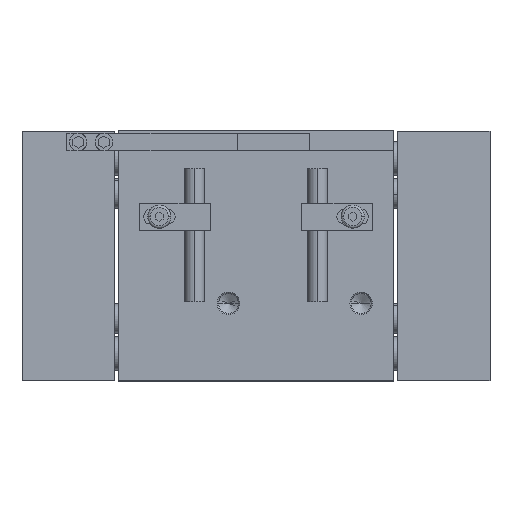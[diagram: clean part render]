
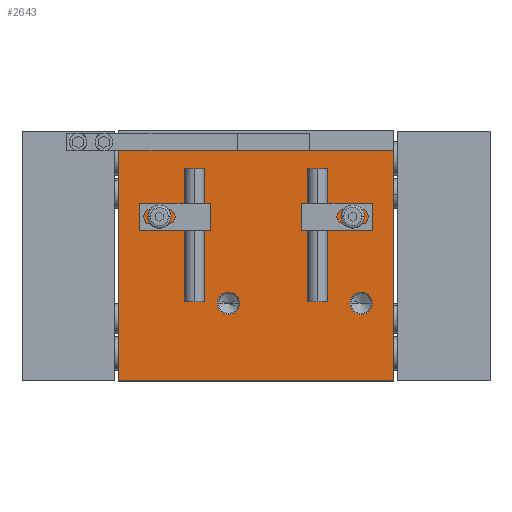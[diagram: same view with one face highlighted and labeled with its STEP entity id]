
A CAD part, top view. The second image highlights one B-rep face of the part: STEP entity #2643.
In plain terms, the highlighted planar face has unit normal (0, 0, 1).
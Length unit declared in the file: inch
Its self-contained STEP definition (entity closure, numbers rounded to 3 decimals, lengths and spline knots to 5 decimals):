
#14 = AXIS2_PLACEMENT_3D ( 'NONE', #1719, #6163, #2405 ) ;
#227 = CARTESIAN_POINT ( 'NONE',  ( -0.22, -0.38, 0.75 ) ) ;
#327 = DIRECTION ( 'NONE',  ( 1., 0., 0. ) ) ;
#403 = VERTEX_POINT ( 'NONE', #4340 ) ;
#590 = VECTOR ( 'NONE', #1199, 39.37008 ) ;
#705 = CARTESIAN_POINT ( 'NONE',  ( 1.1, -1., 0.75 ) ) ;
#769 = ORIENTED_EDGE ( 'NONE', *, *, #6817, .T. ) ;
#792 = CARTESIAN_POINT ( 'NONE',  ( -0.3095, -0.38, 0.75 ) ) ;
#877 = DIRECTION ( 'NONE',  ( -1., 0., 0. ) ) ;
#928 = CARTESIAN_POINT ( 'NONE',  ( -0.22, -0.38, 0.75 ) ) ;
#946 = DIRECTION ( 'NONE',  ( 1., 0., 0. ) ) ;
#1134 = CIRCLE ( 'NONE', #14, 0.0895 ) ;
#1194 = CARTESIAN_POINT ( 'NONE',  ( 0.9295, -0.38, 0.75 ) ) ;
#1199 = DIRECTION ( 'NONE',  ( 0., -1., 0. ) ) ;
#1236 = ORIENTED_EDGE ( 'NONE', *, *, #4220, .T. ) ;
#1273 = CARTESIAN_POINT ( 'NONE',  ( -0.1305, -0.38, 0.75 ) ) ;
#1298 = ORIENTED_EDGE ( 'NONE', *, *, #7518, .T. ) ;
#1360 = AXIS2_PLACEMENT_3D ( 'NONE', #928, #5415, #1595 ) ;
#1433 = VECTOR ( 'NONE', #327, 39.37008 ) ;
#1528 = AXIS2_PLACEMENT_3D ( 'NONE', #5858, #2067, #6470 ) ;
#1595 = DIRECTION ( 'NONE',  ( -1., 0., 0. ) ) ;
#1632 = VERTEX_POINT ( 'NONE', #705 ) ;
#1719 = CARTESIAN_POINT ( 'NONE',  ( 0.84, -0.38, 0.75 ) ) ;
#1774 = EDGE_CURVE ( 'NONE', #7365, #5911, #4674, .T. ) ;
#1873 = CARTESIAN_POINT ( 'NONE',  ( -1.1, 1., 0.75 ) ) ;
#2067 = DIRECTION ( 'NONE',  ( 0., 0., -1. ) ) ;
#2185 = ORIENTED_EDGE ( 'NONE', *, *, #3963, .T. ) ;
#2192 = EDGE_LOOP ( 'NONE', ( #769, #5877 ) ) ;
#2286 = FACE_BOUND ( 'NONE', #2192, .T. ) ;
#2387 = LINE ( 'NONE', #1873, #590 ) ;
#2405 = DIRECTION ( 'NONE',  ( -1., 0., 0. ) ) ;
#2475 = CIRCLE ( 'NONE', #1528, 0.0895 ) ;
#2569 = EDGE_CURVE ( 'NONE', #8061, #403, #1134, .T. ) ;
#2643 = ADVANCED_FACE ( 'NONE', ( #2286, #2711, #4383 ), #7451, .F. ) ;
#2704 = AXIS2_PLACEMENT_3D ( 'NONE', #4978, #3745, #8095 ) ;
#2711 = FACE_BOUND ( 'NONE', #5322, .T. ) ;
#2747 = AXIS2_PLACEMENT_3D ( 'NONE', #227, #4763, #877 ) ;
#2749 = ORIENTED_EDGE ( 'NONE', *, *, #7791, .F. ) ;
#2897 = VERTEX_POINT ( 'NONE', #8250 ) ;
#3083 = CARTESIAN_POINT ( 'NONE',  ( -1.1, 0.84, 0.75 ) ) ;
#3218 = ORIENTED_EDGE ( 'NONE', *, *, #2569, .T. ) ;
#3426 = EDGE_CURVE ( 'NONE', #6982, #2897, #2387, .T. ) ;
#3523 = ORIENTED_EDGE ( 'NONE', *, *, #3426, .T. ) ;
#3745 = DIRECTION ( 'NONE',  ( 0., 0., -1. ) ) ;
#3963 = EDGE_CURVE ( 'NONE', #1632, #6486, #7357, .T. ) ;
#4220 = EDGE_CURVE ( 'NONE', #403, #8061, #2475, .T. ) ;
#4340 = CARTESIAN_POINT ( 'NONE',  ( 0.7505, -0.38, 0.75 ) ) ;
#4383 = FACE_OUTER_BOUND ( 'NONE', #4906, .T. ) ;
#4561 = VECTOR ( 'NONE', #946, 39.37008 ) ;
#4674 = CIRCLE ( 'NONE', #2747, 0.0895 ) ;
#4763 = DIRECTION ( 'NONE',  ( 0., 0., -1. ) ) ;
#4850 = CARTESIAN_POINT ( 'NONE',  ( -1.1, 0.84, 0.75 ) ) ;
#4906 = EDGE_LOOP ( 'NONE', ( #2185, #2749, #3523, #1298 ) ) ;
#4955 = DIRECTION ( 'NONE',  ( 0., 1., 0. ) ) ;
#4978 = CARTESIAN_POINT ( 'NONE',  ( -1.1, 1., 0.75 ) ) ;
#5322 = EDGE_LOOP ( 'NONE', ( #3218, #1236 ) ) ;
#5415 = DIRECTION ( 'NONE',  ( 0., 0., -1. ) ) ;
#5441 = CARTESIAN_POINT ( 'NONE',  ( -1.1, -1., 0.75 ) ) ;
#5553 = CARTESIAN_POINT ( 'NONE',  ( 1.1, -1., 0.75 ) ) ;
#5858 = CARTESIAN_POINT ( 'NONE',  ( 0.84, -0.38, 0.75 ) ) ;
#5877 = ORIENTED_EDGE ( 'NONE', *, *, #1774, .T. ) ;
#5911 = VERTEX_POINT ( 'NONE', #1273 ) ;
#6120 = LINE ( 'NONE', #4850, #1433 ) ;
#6163 = DIRECTION ( 'NONE',  ( 0., 0., -1. ) ) ;
#6224 = LINE ( 'NONE', #5441, #4561 ) ;
#6470 = DIRECTION ( 'NONE',  ( -1., 0., 0. ) ) ;
#6486 = VERTEX_POINT ( 'NONE', #7575 ) ;
#6817 = EDGE_CURVE ( 'NONE', #5911, #7365, #7387, .T. ) ;
#6982 = VERTEX_POINT ( 'NONE', #3083 ) ;
#7357 = LINE ( 'NONE', #5553, #7544 ) ;
#7365 = VERTEX_POINT ( 'NONE', #792 ) ;
#7387 = CIRCLE ( 'NONE', #1360, 0.0895 ) ;
#7451 = PLANE ( 'NONE',  #2704 ) ;
#7518 = EDGE_CURVE ( 'NONE', #2897, #1632, #6224, .T. ) ;
#7544 = VECTOR ( 'NONE', #4955, 39.37008 ) ;
#7575 = CARTESIAN_POINT ( 'NONE',  ( 1.1, 0.84, 0.75 ) ) ;
#7791 = EDGE_CURVE ( 'NONE', #6982, #6486, #6120, .T. ) ;
#8061 = VERTEX_POINT ( 'NONE', #1194 ) ;
#8095 = DIRECTION ( 'NONE',  ( -1., 0., 0. ) ) ;
#8250 = CARTESIAN_POINT ( 'NONE',  ( -1.1, -1., 0.75 ) ) ;
